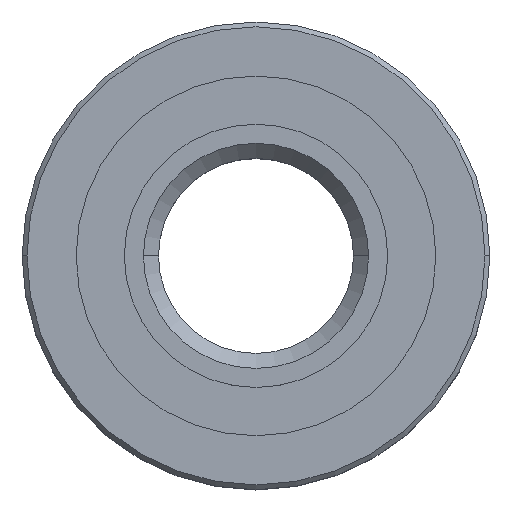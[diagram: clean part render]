
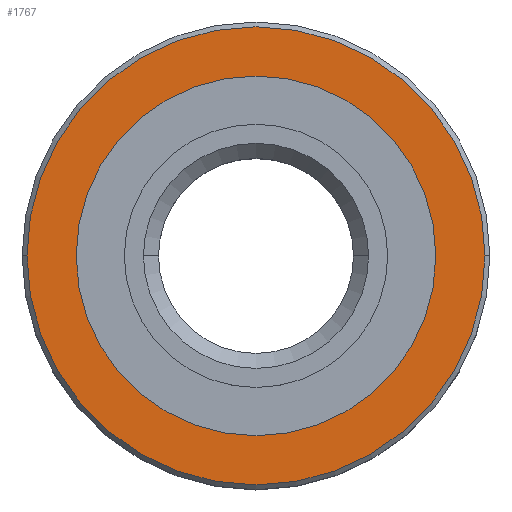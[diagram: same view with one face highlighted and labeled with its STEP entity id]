
A CAD part, top view. The second image highlights one B-rep face of the part: STEP entity #1767.
In plain terms, the highlighted planar face has unit normal (0, 0, 1).
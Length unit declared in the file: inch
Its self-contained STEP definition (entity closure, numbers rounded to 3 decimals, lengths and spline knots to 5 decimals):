
#10 = CARTESIAN_POINT ( 'NONE',  ( -0.23798, 0., 0.09375 ) ) ;
#28 = CARTESIAN_POINT ( 'NONE',  ( 0., 0., 0.09375 ) ) ;
#29 = CARTESIAN_POINT ( 'NONE',  ( 0., 0., 0.09375 ) ) ;
#38 = DIRECTION ( 'NONE',  ( 0., 0., 1. ) ) ;
#238 = FACE_BOUND ( 'NONE', #439, .T. ) ;
#245 = CIRCLE ( 'NONE', #631, 0.23798 ) ;
#321 = EDGE_CURVE ( 'NONE', #1668, #692, #1619, .T. ) ;
#334 = DIRECTION ( 'NONE',  ( 0., 0., 1. ) ) ;
#354 = CIRCLE ( 'NONE', #476, 0.30313 ) ;
#435 = AXIS2_PLACEMENT_3D ( 'NONE', #1332, #38, #1792 ) ;
#436 = VERTEX_POINT ( 'NONE', #1527 ) ;
#439 = EDGE_LOOP ( 'NONE', ( #539, #1467 ) ) ;
#449 = CARTESIAN_POINT ( 'NONE',  ( 0.23798, 0., 0.09375 ) ) ;
#476 = AXIS2_PLACEMENT_3D ( 'NONE', #28, #1647, #1059 ) ;
#509 = CARTESIAN_POINT ( 'NONE',  ( 0., 0., 0.09375 ) ) ;
#539 = ORIENTED_EDGE ( 'NONE', *, *, #717, .F. ) ;
#613 = DIRECTION ( 'NONE',  ( 1., 0., 0. ) ) ;
#614 = CARTESIAN_POINT ( 'NONE',  ( -0.30313, 0., 0.09375 ) ) ;
#631 = AXIS2_PLACEMENT_3D ( 'NONE', #509, #678, #686 ) ;
#662 = EDGE_CURVE ( 'NONE', #436, #1211, #1260, .T. ) ;
#678 = DIRECTION ( 'NONE',  ( 0., 0., 1. ) ) ;
#679 = PLANE ( 'NONE',  #1343 ) ;
#686 = DIRECTION ( 'NONE',  ( 1., 0., 0. ) ) ;
#692 = VERTEX_POINT ( 'NONE', #449 ) ;
#717 = EDGE_CURVE ( 'NONE', #692, #1668, #245, .T. ) ;
#832 = FACE_OUTER_BOUND ( 'NONE', #950, .T. ) ;
#950 = EDGE_LOOP ( 'NONE', ( #955, #1610 ) ) ;
#955 = ORIENTED_EDGE ( 'NONE', *, *, #1711, .T. ) ;
#1059 = DIRECTION ( 'NONE',  ( 1., 0., 0. ) ) ;
#1120 = DIRECTION ( 'NONE',  ( -1., 0., 0. ) ) ;
#1211 = VERTEX_POINT ( 'NONE', #614 ) ;
#1260 = CIRCLE ( 'NONE', #435, 0.30313 ) ;
#1319 = AXIS2_PLACEMENT_3D ( 'NONE', #29, #334, #613 ) ;
#1332 = CARTESIAN_POINT ( 'NONE',  ( 0., 0., 0.09375 ) ) ;
#1343 = AXIS2_PLACEMENT_3D ( 'NONE', #1683, #1405, #1120 ) ;
#1405 = DIRECTION ( 'NONE',  ( 0., 0., -1. ) ) ;
#1467 = ORIENTED_EDGE ( 'NONE', *, *, #321, .F. ) ;
#1527 = CARTESIAN_POINT ( 'NONE',  ( 0.30313, 0., 0.09375 ) ) ;
#1610 = ORIENTED_EDGE ( 'NONE', *, *, #662, .T. ) ;
#1619 = CIRCLE ( 'NONE', #1319, 0.23798 ) ;
#1647 = DIRECTION ( 'NONE',  ( 0., 0., 1. ) ) ;
#1668 = VERTEX_POINT ( 'NONE', #10 ) ;
#1683 = CARTESIAN_POINT ( 'NONE',  ( 0., 0.30313, 0.09375 ) ) ;
#1711 = EDGE_CURVE ( 'NONE', #1211, #436, #354, .T. ) ;
#1767 = ADVANCED_FACE ( 'NONE', ( #238, #832 ), #679, .F. ) ;
#1792 = DIRECTION ( 'NONE',  ( 1., 0., 0. ) ) ;
